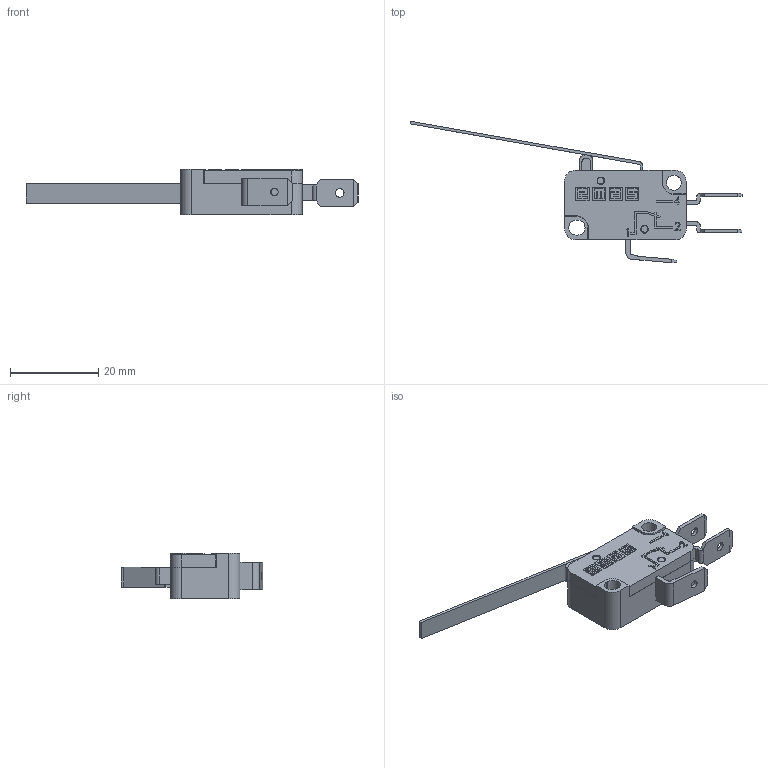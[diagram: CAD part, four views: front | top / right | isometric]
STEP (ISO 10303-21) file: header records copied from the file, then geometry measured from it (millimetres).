
FILE_DESCRIPTION((''),'2; 1');
FILE_NAME('','2026-03-27T16:18:08',(''),(''),'CST STEP Exporter V1.0','Unknown','');
FILE_SCHEMA(('CONFIG_CONTROL_DESIGN'));
Length unit declared in the file: metre
Assembly tree (9 placements, depth 2):
  (unnamed)
    (unnamed)
    (unnamed)
    (unnamed)
    (unnamed)
    (unnamed)
    (unnamed)
    (unnamed)
    (unnamed)
    (unnamed)
Bounding box: 75.44 x 32.15 x 10.4 mm (x, y, z)
Surface area: 7648 mm2 (no closed solid volume)
Topology: 0 solids, 9 shells, 270 faces, 1007 edges, 749 vertices
Faces by surface type: plane 229, cylinder 35, extrusion 6
Full cylindrical faces by diameter (mm): 1.5 x2, 1.7 x1, 1.75 x2, 1.95 x2, 3.4 x1
Entity records: 12934 total; most frequent: CARTESIAN_POINT 2194, DIRECTION 1651, ORIENTED_EDGE 1624, EDGE_CURVE 996, VECTOR 833, LINE 827, VERTEX_POINT 746, AXIS2_PLACEMENT_3D 409
